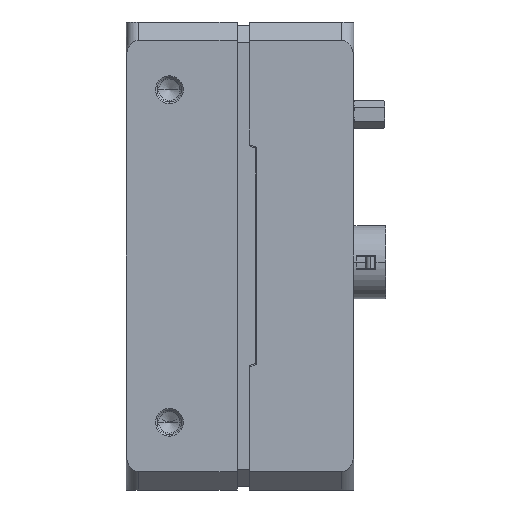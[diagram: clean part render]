
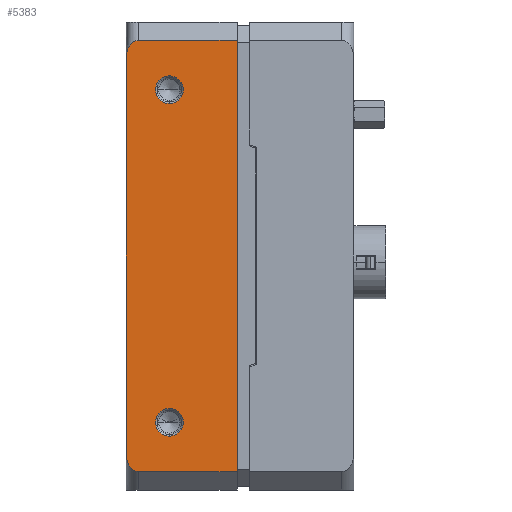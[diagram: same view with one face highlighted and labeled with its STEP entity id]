
A CAD part, left-side view. The second image highlights one B-rep face of the part: STEP entity #5383.
In plain terms, the highlighted planar face has unit normal (-1, 0, 0).
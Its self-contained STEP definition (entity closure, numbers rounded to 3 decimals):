
#63=DIRECTION('',(0.,0.,1.));
#64=VECTOR('',#63,64.343);
#65=CARTESIAN_POINT('',(-38.,19.,-32.172));
#66=LINE('',#65,#64);
#1289=CARTESIAN_POINT('',(-38.,19.,-32.172));
#1290=CARTESIAN_POINT('',(-38.,19.,-32.574));
#1291=CARTESIAN_POINT('',(-38.,18.888,-33.267));
#1292=CARTESIAN_POINT('',(-38.,18.516,-34.101));
#1293=CARTESIAN_POINT('',(-38.,18.043,-34.635));
#1294=CARTESIAN_POINT('',(-38.,17.527,-34.923));
#1295=CARTESIAN_POINT('',(-38.,17.201,-35.));
#1296=CARTESIAN_POINT('',(-38.,17.,-35.));
#1298=CARTESIAN_POINT('',(-38.,17.,35.));
#1299=CARTESIAN_POINT('',(-38.,17.201,35.));
#1300=CARTESIAN_POINT('',(-38.,17.527,34.923));
#1301=CARTESIAN_POINT('',(-38.,18.043,34.635));
#1302=CARTESIAN_POINT('',(-38.,18.516,34.101));
#1303=CARTESIAN_POINT('',(-38.,18.888,33.267));
#1304=CARTESIAN_POINT('',(-38.,19.,32.574));
#1305=CARTESIAN_POINT('',(-38.,19.,32.172));
#1307=DIRECTION('',(0.,-1.,0.));
#1308=VECTOR('',#1307,16.);
#1309=CARTESIAN_POINT('',(-38.,17.,35.));
#1310=LINE('',#1309,#1308);
#1311=DIRECTION('',(0.,0.,1.));
#1312=VECTOR('',#1311,70.);
#1313=CARTESIAN_POINT('',(-38.,1.,-35.));
#1314=LINE('',#1313,#1312);
#1315=DIRECTION('',(0.,-1.,0.));
#1316=VECTOR('',#1315,16.);
#1317=CARTESIAN_POINT('',(-38.,17.,-35.));
#1318=LINE('',#1317,#1316);
#1319=CARTESIAN_POINT('',(-38.,12.,27.));
#1320=DIRECTION('',(1.,0.,0.));
#1321=DIRECTION('',(0.,0.,-1.));
#1322=AXIS2_PLACEMENT_3D('',#1319,#1320,#1321);
#1324=CARTESIAN_POINT('',(-38.,12.,27.));
#1325=DIRECTION('',(1.,0.,0.));
#1326=DIRECTION('',(0.,0.,1.));
#1327=AXIS2_PLACEMENT_3D('',#1324,#1325,#1326);
#1329=CARTESIAN_POINT('',(-38.,12.,-27.));
#1330=DIRECTION('',(1.,0.,0.));
#1331=DIRECTION('',(0.,0.,-1.));
#1332=AXIS2_PLACEMENT_3D('',#1329,#1330,#1331);
#1334=CARTESIAN_POINT('',(-38.,12.,-27.));
#1335=DIRECTION('',(1.,0.,0.));
#1336=DIRECTION('',(0.,0.,1.));
#1337=AXIS2_PLACEMENT_3D('',#1334,#1335,#1336);
#3025=CARTESIAN_POINT('',(-38.,1.,35.));
#3026=VERTEX_POINT('',#3025);
#3029=CARTESIAN_POINT('',(-38.,1.,-35.));
#3030=VERTEX_POINT('',#3029);
#3249=CARTESIAN_POINT('',(-38.,12.,24.75));
#3250=CARTESIAN_POINT('',(-38.,12.,29.25));
#3251=VERTEX_POINT('',#3249);
#3252=VERTEX_POINT('',#3250);
#3257=CARTESIAN_POINT('',(-38.,12.,-29.25));
#3258=CARTESIAN_POINT('',(-38.,12.,-24.75));
#3259=VERTEX_POINT('',#3257);
#3260=VERTEX_POINT('',#3258);
#3335=VERTEX_POINT('',#1289);
#3336=VERTEX_POINT('',#1296);
#3342=CARTESIAN_POINT('',(-38.,17.,35.));
#3343=VERTEX_POINT('',#3342);
#3344=VERTEX_POINT('',#1305);
#5355=CARTESIAN_POINT('',(-38.,0.,-38.));
#5356=DIRECTION('',(-1.,0.,0.));
#5357=DIRECTION('',(0.,0.,1.));
#5358=AXIS2_PLACEMENT_3D('',#5355,#5356,#5357);
#5359=PLANE('',#5358);
#5360=ORIENTED_EDGE('',*,*,#5346,.F.);
#5361=ORIENTED_EDGE('',*,*,#3758,.T.);
#5363=ORIENTED_EDGE('',*,*,#5362,.F.);
#5365=ORIENTED_EDGE('',*,*,#5364,.T.);
#5366=ORIENTED_EDGE('',*,*,#5101,.F.);
#5368=ORIENTED_EDGE('',*,*,#5367,.F.);
#5369=EDGE_LOOP('',(#5360,#5361,#5363,#5365,#5366,#5368));
#5370=FACE_OUTER_BOUND('',#5369,.F.);
#5372=ORIENTED_EDGE('',*,*,#5371,.F.);
#5374=ORIENTED_EDGE('',*,*,#5373,.F.);
#5375=EDGE_LOOP('',(#5372,#5374));
#5376=FACE_BOUND('',#5375,.F.);
#5378=ORIENTED_EDGE('',*,*,#5377,.F.);
#5380=ORIENTED_EDGE('',*,*,#5379,.F.);
#5381=EDGE_LOOP('',(#5378,#5380));
#5382=FACE_BOUND('',#5381,.F.);
#5383=ADVANCED_FACE('',(#5370,#5376,#5382),#5359,.T.);
#1297=B_SPLINE_CURVE_WITH_KNOTS('',3,(#1289,#1290,#1291,#1292,#1293,#1294,#1295,
#1296),.UNSPECIFIED.,.F.,.F.,(4,1,1,1,1,4),(0.,0.25,0.5,0.75,0.875,
1.),.UNSPECIFIED.);
#1306=B_SPLINE_CURVE_WITH_KNOTS('',3,(#1298,#1299,#1300,#1301,#1302,#1303,#1304,
#1305),.UNSPECIFIED.,.F.,.F.,(4,1,1,1,1,4),(0.,0.125,0.25,0.5,0.75,
1.),.UNSPECIFIED.);
#1323=CIRCLE('',#1322,2.25);
#1328=CIRCLE('',#1327,2.25);
#1333=CIRCLE('',#1332,2.25);
#1338=CIRCLE('',#1337,2.25);
#3758=EDGE_CURVE('',#3335,#3344,#66,.T.);
#5101=EDGE_CURVE('',#3030,#3026,#1314,.T.);
#5346=EDGE_CURVE('',#3335,#3336,#1297,.T.);
#5362=EDGE_CURVE('',#3343,#3344,#1306,.T.);
#5364=EDGE_CURVE('',#3343,#3026,#1310,.T.);
#5367=EDGE_CURVE('',#3336,#3030,#1318,.T.);
#5371=EDGE_CURVE('',#3251,#3252,#1323,.T.);
#5373=EDGE_CURVE('',#3252,#3251,#1328,.T.);
#5377=EDGE_CURVE('',#3259,#3260,#1333,.T.);
#5379=EDGE_CURVE('',#3260,#3259,#1338,.T.);
